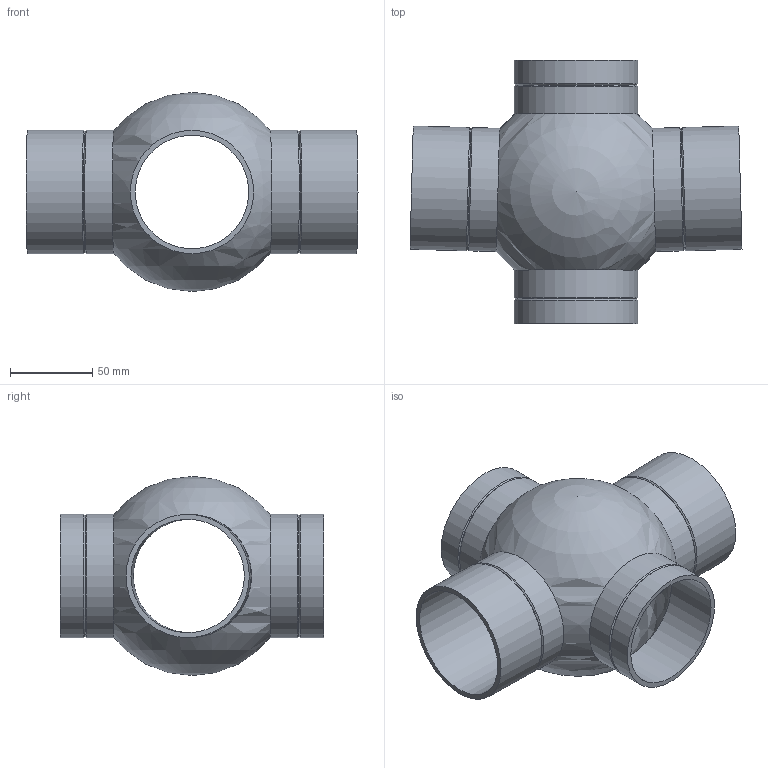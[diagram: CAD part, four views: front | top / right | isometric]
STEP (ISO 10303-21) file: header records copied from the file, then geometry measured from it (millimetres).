
FILE_DESCRIPTION(/* description */ (''),/* implementation_level */ '2;1');
FILE_NAME(/* name */ 'Z:\Geberit\Export\NewStep\365275.stp',/* time_stamp */ '2014-04-02T07:33:57+02:00',/* author */ ('nelson'),/* organization */ (''),/* preprocessor_version */ 'ST-DEVELOPER v15.2',/* originating_system */ 'Autodesk Inventor 2014',/* authorisation */ '');
FILE_SCHEMA (('AUTOMOTIVE_DESIGN { 1 0 10303 214 3 1 1 }'));
Length unit declared in the file: millimetre
Products named in the file (1): 365275
Bounding box: 201.89 x 160 x 121 mm (x, y, z)
Volume: 193572.6 mm3; surface area: 132630.2 mm2
Topology: 1 solids, 1 shells, 26 faces, 62 edges, 40 vertices
Faces by surface type: cylinder 12, cone 8, plane 4, sphere 2
Full cylindrical faces by diameter (mm): 69 x4, 75 x8
Entity records: 603 total; most frequent: DIRECTION 110, CARTESIAN_POINT 83, EDGE_LOOP 56, ORIENTED_EDGE 56, AXIS2_PLACEMENT_3D 55, FACE_BOUND 36, CIRCLE 28, VERTEX_POINT 28
